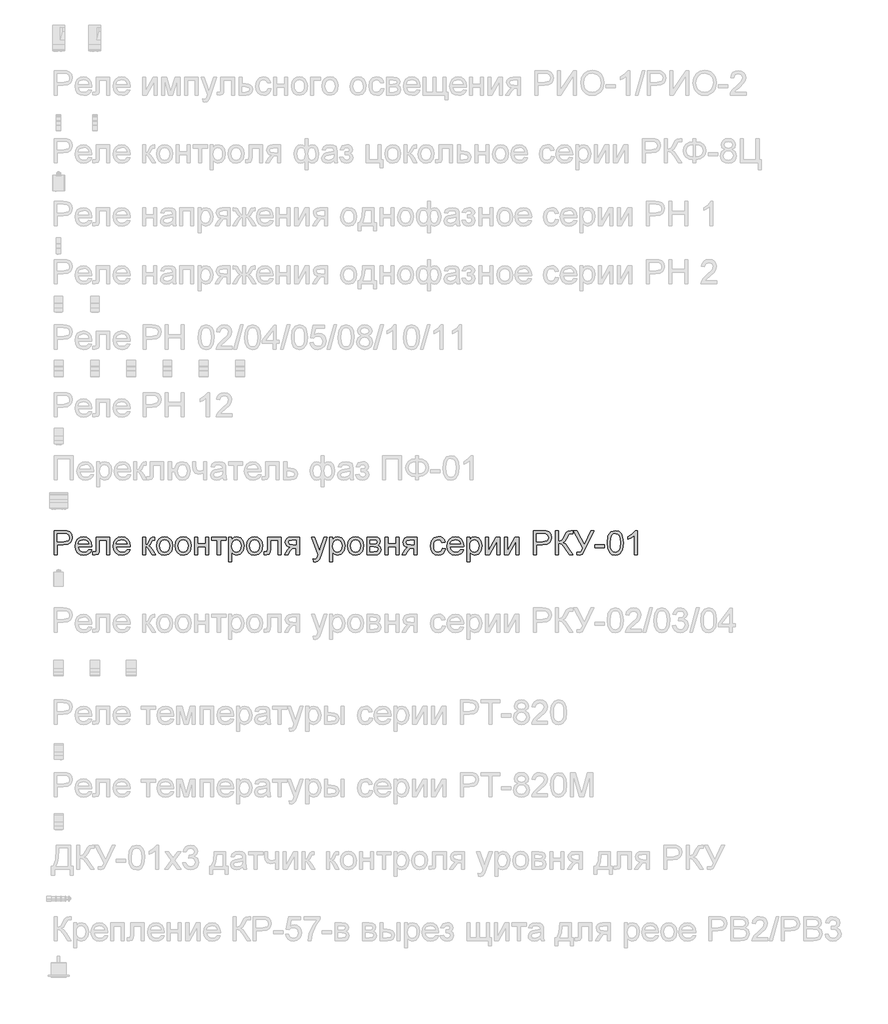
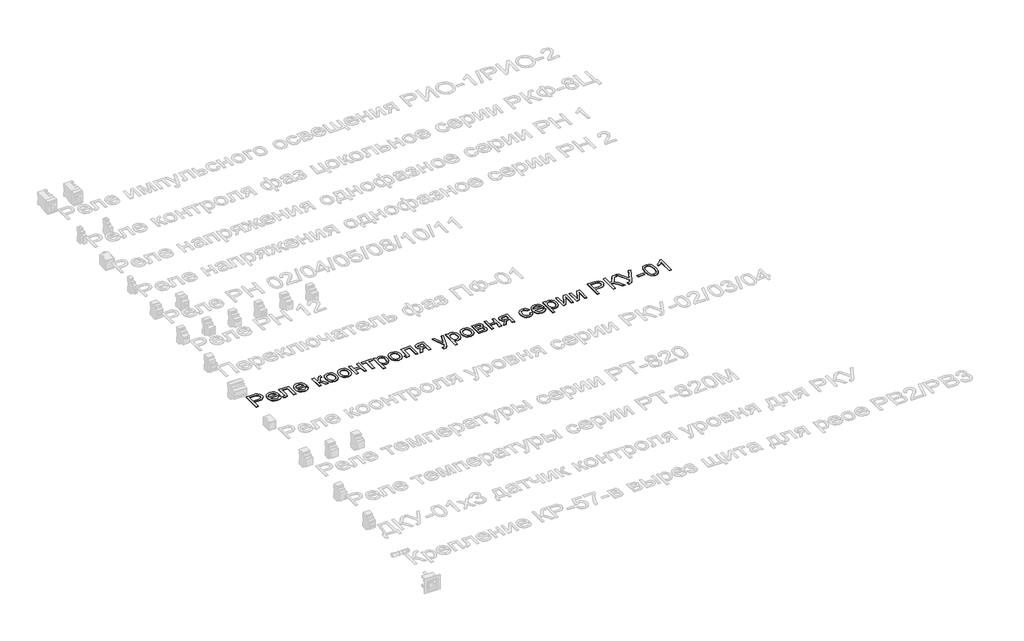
# One storey, part 8 of 34: 1 proxy.
"""IFC4 building model written with IfcOpenShell, lengths in millimetres."""

from ifc_helpers import new_model, si_unit, frame, origin, place, context, project, spatial, polyline, outline, extrude, element, save

model = new_model("IFC4")

# Units and contexts
model_context = context("Model", 3, world=origin())
ifc_project = project(units=[si_unit("LENGTHUNIT", "METRE", prefix="MILLI")], contexts=[model_context])

# Site, building, storey
site = spatial("IfcSite", under=ifc_project)
building = spatial("IfcBuilding", under=site)
storey = spatial("IfcBuildingStorey", under=building, Name="Этаж 01", Elevation=0.0)

# Proxy
placement = place(None, origin())
element("IfcBuildingElementProxy", 1, Name="Надпись на модели 1", ObjectType="Надпись на модели 1", at=placement, inside=storey, context=model_context, shape_type="SweptSolid", body=[
    extrude(outline(polyline([(-19039.0125911, 9086.235284), (-19039.0125911, 9186.6915941), (-19001.7829332, 9186.6915941), (-18986.7733478, 9185.735101), (-18974.5719283, 9181.0384742), (-18966.6624654, 9171.3263895), (-18963.6703585, 9157.6289165), (-18965.6906438, 9145.7892476), (-18971.7514996, 9135.9238788), (-18983.0853308, 9129.2652147), (-19000.9245418, 9127.04566), (-19026.4555523, 9127.04566), (-19026.4555523, 9086.235284), (-19039.0125911, 9086.235284)]), holes=[polyline([(-19026.4555523, 9139.6026988), (-19000.1887779, 9139.6026988), (-18981.6965762, 9144.2134864), (-18977.594692, 9149.7623732), (-18976.2273972, 9157.1874581), (-18979.4524961, 9167.5862559), (-18987.9260447, 9173.2761641), (-19000.4830834, 9174.1345554), (-19026.4555523, 9174.1345554), (-19026.4555523, 9139.6026988)])]), frame((0.0, 0.0, 40.0), z_axis=(0.0, 0.0, 1.0), x_axis=(1.0, 0.0, 0.0)), (0.0, 0.0, 1.0), 2.0),
    extrude(outline(polyline([(-18896.3234279, 9108.2101018), (-18884.0116438, 9106.640472), (-18888.4476875, 9097.3637143), (-18895.5263502, 9090.4291387), (-18905.0882164, 9086.1065253), (-18916.9738705, 9084.6656541), (-18931.7075445, 9087.1519233), (-18943.0444413, 9094.6107308), (-18950.2733225, 9106.5576985), (-18952.6829495, 9122.5084487), (-18950.248797, 9138.9956935), (-18942.9463394, 9151.3258717), (-18931.7627268, 9159.0146054), (-18917.6851091, 9161.5775166), (-18904.0458841, 9159.0207367), (-18893.14738, 9151.3503971), (-18886.0012722, 9139.0447444), (-18883.6192363, 9122.5820251), (-18883.6928127, 9119.1975108), (-18940.1259108, 9119.1975108), (-18937.9523413, 9109.7981258), (-18932.9031609, 9102.8880756), (-18925.6160317, 9098.6390386), (-18916.7286159, 9097.2226929), (-18904.4168318, 9099.8469178), (-18896.3234279, 9108.2101018)]), holes=[polyline([(-18940.1259108, 9131.7545495), (-18896.1762751, 9131.7545495), (-18901.2039957, 9143.1343659), (-18908.5248474, 9147.5489499), (-18917.73416, 9149.0204778), (-18933.1974665, 9144.323851), (-18938.0627059, 9138.8332123), (-18940.1259108, 9131.7545495)])]), frame((0.0, 0.0, 40.0), z_axis=(0.0, 0.0, 1.0), x_axis=(1.0, 0.0, 0.0)), (0.0, 0.0, 1.0), 2.0),
    extrude(outline(polyline([(-18864.7836782, 9160.0078868), (-18808.2770037, 9160.0078868), (-18808.2770037, 9086.3088604), (-18820.8340425, 9086.3088604), (-18820.8340425, 9147.450848), (-18852.2266394, 9147.450848), (-18852.2266394, 9112.2568038), (-18853.072768, 9096.0209451), (-18857.7203439, 9089.1660772), (-18868.7077528, 9086.235284), (-18878.9103468, 9086.8729461), (-18878.9103468, 9098.7923228), (-18873.294015, 9098.7923228), (-18867.6163695, 9099.564875), (-18865.3477639, 9102.0174216), (-18864.7836782, 9112.9680423), (-18864.7836782, 9160.0078868)])), frame((0.0, 0.0, 40.0), z_axis=(0.0, 0.0, 1.0), x_axis=(1.0, 0.0, 0.0)), (0.0, 0.0, 1.0), 2.0),
    extrude(outline(polyline([(-18737.7908134, 9108.2101018), (-18725.4790293, 9106.640472), (-18729.915073, 9097.3637143), (-18736.9937358, 9090.4291387), (-18746.555602, 9086.1065253), (-18758.4412561, 9084.6656541), (-18773.17493, 9087.1519233), (-18784.5118268, 9094.6107308), (-18791.740708, 9106.5576985), (-18794.1503351, 9122.5084487), (-18791.7161826, 9138.9956935), (-18784.4137249, 9151.3258717), (-18773.2301123, 9159.0146054), (-18759.1524946, 9161.5775166), (-18745.5132696, 9159.0207367), (-18734.6147655, 9151.3503971), (-18727.4686578, 9139.0447444), (-18725.0866219, 9122.5820251), (-18725.1601983, 9119.1975108), (-18781.5932963, 9119.1975108), (-18779.4197269, 9109.7981258), (-18774.3705465, 9102.8880756), (-18767.0834173, 9098.6390386), (-18758.1960014, 9097.2226929), (-18745.8842173, 9099.8469178), (-18737.7908134, 9108.2101018)]), holes=[polyline([(-18781.5932963, 9131.7545495), (-18737.6436606, 9131.7545495), (-18742.6713812, 9143.1343659), (-18749.9922329, 9147.5489499), (-18759.2015455, 9149.0204778), (-18774.6648521, 9144.323851), (-18779.5300915, 9138.8332123), (-18781.5932963, 9131.7545495)])]), frame((0.0, 0.0, 40.0), z_axis=(0.0, 0.0, 1.0), x_axis=(1.0, 0.0, 0.0)), (0.0, 0.0, 1.0), 2.0),
    extrude(outline(polyline([(-18673.2888369, 9160.0078868), (-18660.7317982, 9160.0078868), (-18660.7317982, 9128.6152898), (-18652.3195632, 9130.8716327), (-18645.4279072, 9144.0172827), (-18639.7012108, 9155.3603109), (-18634.6489647, 9159.0513936), (-18625.4641776, 9160.0078868), (-18623.0606819, 9160.0078868), (-18623.0606819, 9147.3772716), (-18626.4451962, 9147.450848), (-18632.5765628, 9146.1264728), (-18636.8930449, 9137.8613906), (-18641.9575537, 9128.9218582), (-18649.0576762, 9124.5440624), (-18641.1359506, 9119.6573633), (-18633.3613777, 9109.3627988), (-18619.9214222, 9086.235284), (-18634.1952436, 9086.235284), (-18647.365419, 9108.8722894), (-18653.9872949, 9118.449484), (-18660.7317982, 9120.7671406), (-18660.7317982, 9086.235284), (-18673.2888369, 9086.235284), (-18673.2888369, 9160.0078868)])), frame((0.0, 0.0, 40.0), z_axis=(0.0, 0.0, 1.0), x_axis=(1.0, 0.0, 0.0)), (0.0, 0.0, 1.0), 2.0),
    extrude(outline(polyline([(-18615.2125326, 9123.1215854), (-18612.4963372, 9140.9086798), (-18604.347751, 9153.4105363), (-18594.2800471, 9159.5357715), (-18582.2257804, 9161.5775166), (-18569.0341452, 9159.0912475), (-18558.4973917, 9151.63244), (-18551.5904073, 9139.7897054), (-18549.2880791, 9124.151655), (-18553.3593065, 9101.8089551), (-18565.2173695, 9089.1660772), (-18582.2257804, 9084.6656541), (-18595.5768311, 9087.1427262), (-18606.1013219, 9094.5739426), (-18612.9347299, 9106.6649975), (-18615.2125326, 9123.1215854)]), holes=[polyline([(-18602.6554939, 9123.1461108), (-18601.20236, 9111.7816229), (-18596.8429583, 9103.6851533), (-18590.2823961, 9098.838308), (-18582.2257804, 9097.2226929), (-18574.2059529, 9098.8475051), (-18567.6576534, 9103.7219415), (-18563.2982517, 9111.92571), (-18561.8451179, 9123.5385183), (-18563.3074488, 9134.5719125), (-18567.6944416, 9142.5580175), (-18574.2519382, 9147.4048627), (-18582.2257804, 9149.0204778), (-18590.2823961, 9147.4109941), (-18596.8429583, 9142.5825429), (-18601.20236, 9134.5044674), (-18602.6554939, 9123.1461108)])]), frame((0.0, 0.0, 40.0), z_axis=(0.0, 0.0, 1.0), x_axis=(1.0, 0.0, 0.0)), (0.0, 0.0, 1.0), 2.0),
    extrude(outline(polyline([(-18538.3006702, 9123.1215854), (-18535.5844748, 9140.9086798), (-18527.4358886, 9153.4105363), (-18517.3681846, 9159.5357715), (-18505.3139179, 9161.5775166), (-18492.1222827, 9159.0912475), (-18481.5855293, 9151.63244), (-18474.6785448, 9139.7897054), (-18472.3762166, 9124.151655), (-18476.4474441, 9101.8089551), (-18488.305507, 9089.1660772), (-18505.3139179, 9084.6656541), (-18518.6649687, 9087.1427262), (-18529.1894594, 9094.5739426), (-18536.0228675, 9106.6649975), (-18538.3006702, 9123.1215854)]), holes=[polyline([(-18525.7436314, 9123.1461108), (-18524.2904975, 9111.7816229), (-18519.9310959, 9103.6851533), (-18513.3705336, 9098.838308), (-18505.3139179, 9097.2226929), (-18497.2940904, 9098.8475051), (-18490.7457909, 9103.7219415), (-18486.3863893, 9111.92571), (-18484.9332554, 9123.5385183), (-18486.3955863, 9134.5719125), (-18490.7825791, 9142.5580175), (-18497.3400757, 9147.4048627), (-18505.3139179, 9149.0204778), (-18513.3705336, 9147.4109941), (-18519.9310959, 9142.5825429), (-18524.2904975, 9134.5044674), (-18525.7436314, 9123.1461108)])]), frame((0.0, 0.0, 40.0), z_axis=(0.0, 0.0, 1.0), x_axis=(1.0, 0.0, 0.0)), (0.0, 0.0, 1.0), 2.0),
    extrude(outline(polyline([(-18458.249548, 9160.0078868), (-18445.6925093, 9160.0078868), (-18445.6925093, 9131.7545495), (-18412.7302825, 9131.7545495), (-18412.7302825, 9160.0078868), (-18400.1732437, 9160.0078868), (-18400.1732437, 9086.235284), (-18412.7302825, 9086.235284), (-18412.7302825, 9119.1975108), (-18445.6925093, 9119.1975108), (-18445.6925093, 9086.235284), (-18458.249548, 9086.235284), (-18458.249548, 9160.0078868)])), frame((0.0, 0.0, 40.0), z_axis=(0.0, 0.0, 1.0), x_axis=(1.0, 0.0, 0.0)), (0.0, 0.0, 1.0), 2.0),
    extrude(outline(polyline([(-18387.616205, 9160.0078868), (-18327.9702708, 9160.0078868), (-18327.9702708, 9147.450848), (-18351.5147185, 9147.450848), (-18351.5147185, 9086.235284), (-18364.0717573, 9086.235284), (-18364.0717573, 9147.450848), (-18387.616205, 9147.450848), (-18387.616205, 9160.0078868)])), frame((0.0, 0.0, 40.0), z_axis=(0.0, 0.0, 1.0), x_axis=(1.0, 0.0, 0.0)), (0.0, 0.0, 1.0), 2.0),
    extrude(outline(polyline([(-18316.9828619, 9057.9819468), (-18316.9828619, 9160.0078868), (-18304.4258231, 9160.0078868), (-18304.4258231, 9147.6961027), (-18295.743808, 9158.1071631), (-18284.0206351, 9161.5775166), (-18268.1036075, 9156.7214743), (-18257.7048097, 9143.036264), (-18254.197668, 9123.6856711), (-18258.1585308, 9103.3417968), (-18269.6609746, 9089.4849083), (-18285.541214, 9084.6656541), (-18296.4673093, 9087.890753), (-18304.4258231, 9096.0454705), (-18304.4258231, 9057.9819468), (-18316.9828619, 9057.9819468)]), holes=[polyline([(-18304.4258231, 9122.5329742), (-18303.0677254, 9111.2757851), (-18298.9934323, 9103.4031104), (-18292.9816274, 9098.7677973), (-18285.8109942, 9097.2226929), (-18278.523865, 9098.8229796), (-18272.3587759, 9103.6238396), (-18268.1557241, 9111.7846886), (-18266.7547068, 9123.4649419), (-18268.1220016, 9134.6608173), (-18272.2238858, 9142.6438566), (-18278.2264937, 9147.4263225), (-18285.2959594, 9149.0204778), (-18292.3930162, 9147.325155), (-18298.6255503, 9142.2391864), (-18302.9757549, 9133.9219876), (-18304.4258231, 9122.5329742)])]), frame((0.0, 0.0, 40.0), z_axis=(0.0, 0.0, 1.0), x_axis=(1.0, 0.0, 0.0)), (0.0, 0.0, 1.0), 2.0),
    extrude(outline(polyline([(-18243.2102591, 9123.1215854), (-18240.4940637, 9140.9086798), (-18232.3454775, 9153.4105363), (-18222.2777736, 9159.5357715), (-18210.2235069, 9161.5775166), (-18197.0318717, 9159.0912475), (-18186.4951182, 9151.63244), (-18179.5881337, 9139.7897054), (-18177.2858056, 9124.151655), (-18181.357033, 9101.8089551), (-18193.215096, 9089.1660772), (-18210.2235069, 9084.6656541), (-18223.5745576, 9087.1427262), (-18234.0990484, 9094.5739426), (-18240.9324564, 9106.6649975), (-18243.2102591, 9123.1215854)]), holes=[polyline([(-18230.6532203, 9123.1461108), (-18229.2000865, 9111.7816229), (-18224.8406848, 9103.6851533), (-18218.2801226, 9098.838308), (-18210.2235069, 9097.2226929), (-18202.2036794, 9098.8475051), (-18195.6553799, 9103.7219415), (-18191.2959782, 9111.92571), (-18189.8428443, 9123.5385183), (-18191.3051753, 9134.5719125), (-18195.6921681, 9142.5580175), (-18202.2496646, 9147.4048627), (-18210.2235069, 9149.0204778), (-18218.2801226, 9147.4109941), (-18224.8406848, 9142.5825429), (-18229.2000865, 9134.5044674), (-18230.6532203, 9123.1461108)])]), frame((0.0, 0.0, 40.0), z_axis=(0.0, 0.0, 1.0), x_axis=(1.0, 0.0, 0.0)), (0.0, 0.0, 1.0), 2.0),
    extrude(outline(polyline([(-18156.8806176, 9160.0078868), (-18100.3739431, 9160.0078868), (-18100.3739431, 9086.3088604), (-18112.9309819, 9086.3088604), (-18112.9309819, 9147.450848), (-18144.3235788, 9147.450848), (-18144.3235788, 9112.2568038), (-18145.1697074, 9096.0209451), (-18149.8172833, 9089.1660772), (-18160.8046922, 9086.235284), (-18171.0072862, 9086.8729461), (-18171.0072862, 9098.7923228), (-18165.3909544, 9098.7923228), (-18159.7133089, 9099.564875), (-18157.4447033, 9102.0174216), (-18156.8806176, 9112.9680423), (-18156.8806176, 9160.0078868)])), frame((0.0, 0.0, 40.0), z_axis=(0.0, 0.0, 1.0), x_axis=(1.0, 0.0, 0.0)), (0.0, 0.0, 1.0), 2.0),
    extrude(outline(polyline([(-18025.0317105, 9160.0078868), (-18025.0317105, 9086.235284), (-18037.5887493, 9086.235284), (-18037.5887493, 9114.4886212), (-18044.4313544, 9114.4886212), (-18053.7510316, 9112.8944659), (-18062.5066231, 9102.1768371), (-18072.5130133, 9086.235284), (-18087.0320894, 9086.235284), (-18074.4259997, 9106.3952173), (-18063.7328964, 9116.843066), (-18072.3168096, 9119.4734223), (-18078.3500743, 9124.470486), (-18083.1080148, 9138.6952565), (-18081.4832027, 9147.2914325), (-18076.6087662, 9154.0972494), (-18068.6563838, 9158.5302274), (-18057.7977335, 9160.0078868), (-18025.0317105, 9160.0078868)]), holes=[polyline([(-18037.5887493, 9147.450848), (-18054.1434391, 9147.450848), (-18067.5466064, 9144.5445802), (-18070.550976, 9137.7387633), (-18066.1241294, 9129.6330967), (-18050.4400936, 9127.04566), (-18037.5887493, 9127.04566), (-18037.5887493, 9147.450848)])]), frame((0.0, 0.0, 40.0), z_axis=(0.0, 0.0, 1.0), x_axis=(1.0, 0.0, 0.0)), (0.0, 0.0, 1.0), 2.0),
    extrude(outline(polyline([(-17966.9554062, 9057.9819468), (-17968.525036, 9070.0730017), (-17962.1484148, 9068.9693557), (-17956.1887265, 9070.3550445), (-17952.534432, 9074.2178055), (-17949.1008667, 9083.4639063), (-17948.119848, 9086.5050641), (-17974.8035554, 9160.0078868), (-17961.5598036, 9160.0078868), (-17947.4086095, 9119.050358), (-17942.4789908, 9102.6673464), (-17937.5493721, 9117.1373716), (-17923.0057705, 9160.0078868), (-17909.8601205, 9160.0078868), (-17935.5382838, 9084.4694504), (-17942.2092107, 9068.0864389), (-17949.4932742, 9059.2327455), (-17959.2789352, 9056.4123169), (-17966.9554062, 9057.9819468)])), frame((0.0, 0.0, 40.0), z_axis=(0.0, 0.0, 1.0), x_axis=(1.0, 0.0, 0.0)), (0.0, 0.0, 1.0), 2.0),
    extrude(outline(polyline([(-17899.4613228, 9057.9819468), (-17899.4613228, 9160.0078868), (-17886.904284, 9160.0078868), (-17886.904284, 9147.6961027), (-17878.222269, 9158.1071631), (-17866.499096, 9161.5775166), (-17850.5820684, 9156.7214743), (-17840.1832707, 9143.036264), (-17836.676129, 9123.6856711), (-17840.6369918, 9103.3417968), (-17852.1394355, 9089.4849083), (-17868.019675, 9084.6656541), (-17878.9457702, 9087.890753), (-17886.904284, 9096.0454705), (-17886.904284, 9057.9819468), (-17899.4613228, 9057.9819468)]), holes=[polyline([(-17886.904284, 9122.5329742), (-17885.5461864, 9111.2757851), (-17881.4718933, 9103.4031104), (-17875.4600883, 9098.7677973), (-17868.2894551, 9097.2226929), (-17861.0023259, 9098.8229796), (-17854.8372368, 9103.6238396), (-17850.634185, 9111.7846886), (-17849.2331677, 9123.4649419), (-17850.6004625, 9134.6608173), (-17854.7023467, 9142.6438566), (-17860.7049546, 9147.4263225), (-17867.7744203, 9149.0204778), (-17874.8714771, 9147.325155), (-17881.1040113, 9142.2391864), (-17885.4542159, 9133.9219876), (-17886.904284, 9122.5329742)])]), frame((0.0, 0.0, 40.0), z_axis=(0.0, 0.0, 1.0), x_axis=(1.0, 0.0, 0.0)), (0.0, 0.0, 1.0), 2.0),
    extrude(outline(polyline([(-17825.6887201, 9123.1215854), (-17822.9725247, 9140.9086798), (-17814.8239385, 9153.4105363), (-17804.7562345, 9159.5357715), (-17792.7019678, 9161.5775166), (-17779.5103326, 9159.0912475), (-17768.9735791, 9151.63244), (-17762.0665947, 9139.7897054), (-17759.7642665, 9124.151655), (-17763.8354939, 9101.8089551), (-17775.6935569, 9089.1660772), (-17792.7019678, 9084.6656541), (-17806.0530186, 9087.1427262), (-17816.5775093, 9094.5739426), (-17823.4109174, 9106.6649975), (-17825.6887201, 9123.1215854)]), holes=[polyline([(-17813.1316813, 9123.1461108), (-17811.6785474, 9111.7816229), (-17807.3191458, 9103.6851533), (-17800.7585835, 9098.838308), (-17792.7019678, 9097.2226929), (-17784.6821403, 9098.8475051), (-17778.1338408, 9103.7219415), (-17773.7744392, 9111.92571), (-17772.3213053, 9123.5385183), (-17773.7836362, 9134.5719125), (-17778.170629, 9142.5580175), (-17784.7281256, 9147.4048627), (-17792.7019678, 9149.0204778), (-17800.7585835, 9147.4109941), (-17807.3191458, 9142.5825429), (-17811.6785474, 9134.5044674), (-17813.1316813, 9123.1461108)])]), frame((0.0, 0.0, 40.0), z_axis=(0.0, 0.0, 1.0), x_axis=(1.0, 0.0, 0.0)), (0.0, 0.0, 1.0), 2.0),
    extrude(outline(polyline([(-17745.6375979, 9160.0078868), (-17717.9728719, 9160.0078868), (-17702.8038709, 9158.3278923), (-17694.2690086, 9152.1720003), (-17690.7005533, 9141.4421087), (-17692.8587943, 9132.7233055), (-17699.3580429, 9126.5060997), (-17690.9212825, 9119.7002828), (-17687.5612936, 9107.8667453), (-17689.6888778, 9098.2956821), (-17694.7472552, 9091.5573102), (-17702.75482, 9087.5657905), (-17713.7299662, 9086.235284), (-17745.6375979, 9086.235284), (-17745.6375979, 9160.0078868)]), holes=[polyline([(-17733.0805591, 9131.7545495), (-17720.6706732, 9131.7545495), (-17710.431291, 9132.3922117), (-17705.4526213, 9134.9428602), (-17703.2575921, 9139.5536478), (-17707.1080903, 9145.7095399), (-17720.2782657, 9147.450848), (-17733.0805591, 9147.450848), (-17733.0805591, 9131.7545495)]), polyline([(-17733.0805591, 9098.7923228), (-17717.6785663, 9098.7923228), (-17704.0178815, 9101.0609284), (-17700.1183324, 9108.8968149), (-17702.2643107, 9114.9423424), (-17707.856117, 9118.4617468), (-17718.9048396, 9119.1975108), (-17733.0805591, 9119.1975108), (-17733.0805591, 9098.7923228)])]), frame((0.0, 0.0, 40.0), z_axis=(0.0, 0.0, 1.0), x_axis=(1.0, 0.0, 0.0)), (0.0, 0.0, 1.0), 2.0),
    extrude(outline(polyline([(-17671.8649951, 9160.0078868), (-17659.3079564, 9160.0078868), (-17659.3079564, 9131.7545495), (-17626.3457296, 9131.7545495), (-17626.3457296, 9160.0078868), (-17613.7886908, 9160.0078868), (-17613.7886908, 9086.235284), (-17626.3457296, 9086.235284), (-17626.3457296, 9119.1975108), (-17659.3079564, 9119.1975108), (-17659.3079564, 9086.235284), (-17671.8649951, 9086.235284), (-17671.8649951, 9160.0078868)])), frame((0.0, 0.0, 40.0), z_axis=(0.0, 0.0, 1.0), x_axis=(1.0, 0.0, 0.0)), (0.0, 0.0, 1.0), 2.0),
    extrude(outline(polyline([(-17538.4464582, 9160.0078868), (-17538.4464582, 9086.235284), (-17551.003497, 9086.235284), (-17551.003497, 9114.4886212), (-17557.8461021, 9114.4886212), (-17567.1657793, 9112.8944659), (-17575.9213708, 9102.1768371), (-17585.9277611, 9086.235284), (-17600.4468371, 9086.235284), (-17587.8407474, 9106.3952173), (-17577.1476441, 9116.843066), (-17585.7315573, 9119.4734223), (-17591.7648221, 9124.470486), (-17596.5227625, 9138.6952565), (-17594.8979504, 9147.2914325), (-17590.0235139, 9154.0972494), (-17582.0711315, 9158.5302274), (-17571.2124813, 9160.0078868), (-17538.4464582, 9160.0078868)]), holes=[polyline([(-17551.003497, 9147.450848), (-17567.5581868, 9147.450848), (-17580.9613541, 9144.5445802), (-17583.9657238, 9137.7387633), (-17579.5388771, 9129.6330967), (-17563.8548414, 9127.04566), (-17551.003497, 9127.04566), (-17551.003497, 9147.450848)])]), frame((0.0, 0.0, 40.0), z_axis=(0.0, 0.0, 1.0), x_axis=(1.0, 0.0, 0.0)), (0.0, 0.0, 1.0), 2.0),
    extrude(outline(polyline([(-17433.2812585, 9112.9189914), (-17420.7242198, 9111.3493615), (-17424.2252301, 9100.1810773), (-17430.8041864, 9091.7412512), (-17439.8418208, 9086.4345534), (-17450.7188651, 9084.6656541), (-17464.0760472, 9087.1335292), (-17474.5208302, 9094.5371544), (-17481.2622678, 9106.5515672), (-17483.5094136, 9122.8518052), (-17479.6711781, 9143.7107144), (-17467.9725307, 9157.1138817), (-17450.8905434, 9161.5775166), (-17440.2802135, 9160.044675), (-17431.7974678, 9155.44615), (-17425.7120865, 9148.0271964), (-17422.2938496, 9138.0330689), (-17434.8508884, 9136.4634391), (-17440.6756866, 9145.8689554), (-17450.7924415, 9149.0204778), (-17458.9073052, 9147.4692421), (-17465.3483058, 9142.8155349), (-17469.5513576, 9134.8079701), (-17470.9523748, 9123.1951618), (-17469.5820144, 9111.4260036), (-17465.4709331, 9103.3908477), (-17459.1464285, 9098.7647316), (-17451.135798, 9097.2226929), (-17439.3022605, 9101.0731911), (-17433.2812585, 9112.9189914)])), frame((0.0, 0.0, 40.0), z_axis=(0.0, 0.0, 1.0), x_axis=(1.0, 0.0, 0.0)), (0.0, 0.0, 1.0), 2.0),
    extrude(outline(polyline([(-17358.0861787, 9108.2101018), (-17345.7743946, 9106.640472), (-17350.2104383, 9097.3637143), (-17357.2891011, 9090.4291387), (-17366.8509673, 9086.1065253), (-17378.7366214, 9084.6656541), (-17393.4702953, 9087.1519233), (-17404.8071921, 9094.6107308), (-17412.0360733, 9106.5576985), (-17414.4457004, 9122.5084487), (-17412.0115478, 9138.9956935), (-17404.7090902, 9151.3258717), (-17393.5254776, 9159.0146054), (-17379.4478599, 9161.5775166), (-17365.8086349, 9159.0207367), (-17354.9101308, 9151.3503971), (-17347.7640231, 9139.0447444), (-17345.3819871, 9122.5820251), (-17345.4555635, 9119.1975108), (-17401.8886616, 9119.1975108), (-17399.7150922, 9109.7981258), (-17394.6659118, 9102.8880756), (-17387.3787826, 9098.6390386), (-17378.4913667, 9097.2226929), (-17366.1795826, 9099.8469178), (-17358.0861787, 9108.2101018)]), holes=[polyline([(-17401.8886616, 9131.7545495), (-17357.9390259, 9131.7545495), (-17362.9667465, 9143.1343659), (-17370.2875982, 9147.5489499), (-17379.4969108, 9149.0204778), (-17394.9602174, 9144.323851), (-17399.8254568, 9138.8332123), (-17401.8886616, 9131.7545495)])]), frame((0.0, 0.0, 40.0), z_axis=(0.0, 0.0, 1.0), x_axis=(1.0, 0.0, 0.0)), (0.0, 0.0, 1.0), 2.0),
    extrude(outline(polyline([(-17332.8249484, 9057.9819468), (-17332.8249484, 9160.0078868), (-17320.2679096, 9160.0078868), (-17320.2679096, 9147.6961027), (-17311.5858945, 9158.1071631), (-17299.8627216, 9161.5775166), (-17283.945694, 9156.7214743), (-17273.5468962, 9143.036264), (-17270.0397545, 9123.6856711), (-17274.0006174, 9103.3417968), (-17285.5030611, 9089.4849083), (-17301.3833005, 9084.6656541), (-17312.3093958, 9087.890753), (-17320.2679096, 9096.0454705), (-17320.2679096, 9057.9819468), (-17332.8249484, 9057.9819468)]), holes=[polyline([(-17320.2679096, 9122.5329742), (-17318.9098119, 9111.2757851), (-17314.8355188, 9103.4031104), (-17308.8237139, 9098.7677973), (-17301.6530807, 9097.2226929), (-17294.3659515, 9098.8229796), (-17288.2008624, 9103.6238396), (-17283.9978106, 9111.7846886), (-17282.5967933, 9123.4649419), (-17283.9640881, 9134.6608173), (-17288.0659723, 9142.6438566), (-17294.0685802, 9147.4263225), (-17301.1380459, 9149.0204778), (-17308.2351027, 9147.325155), (-17314.4676368, 9142.2391864), (-17318.8178414, 9133.9219876), (-17320.2679096, 9122.5329742)])]), frame((0.0, 0.0, 40.0), z_axis=(0.0, 0.0, 1.0), x_axis=(1.0, 0.0, 0.0)), (0.0, 0.0, 1.0), 2.0),
    extrude(outline(polyline([(-17255.9130859, 9160.0078868), (-17243.3560472, 9160.0078868), (-17243.3560472, 9103.746467), (-17212.5030105, 9160.0078868), (-17196.2671518, 9160.0078868), (-17196.2671518, 9086.235284), (-17208.8241905, 9086.235284), (-17208.8241905, 9142.1533473), (-17239.4810235, 9086.235284), (-17255.9130859, 9086.235284), (-17255.9130859, 9160.0078868)])), frame((0.0, 0.0, 40.0), z_axis=(0.0, 0.0, 1.0), x_axis=(1.0, 0.0, 0.0)), (0.0, 0.0, 1.0), 2.0),
    extrude(outline(polyline([(-17177.4315936, 9160.0078868), (-17164.8745548, 9160.0078868), (-17164.8745548, 9103.746467), (-17134.0215182, 9160.0078868), (-17117.7856595, 9160.0078868), (-17117.7856595, 9086.235284), (-17130.3426982, 9086.235284), (-17130.3426982, 9142.1533473), (-17160.9995312, 9086.235284), (-17177.4315936, 9086.235284), (-17177.4315936, 9160.0078868)])), frame((0.0, 0.0, 40.0), z_axis=(0.0, 0.0, 1.0), x_axis=(1.0, 0.0, 0.0)), (0.0, 0.0, 1.0), 2.0),
    extrude(outline(polyline([(-17058.1397253, 9086.235284), (-17058.1397253, 9186.6915941), (-17020.9100674, 9186.6915941), (-17005.900482, 9185.735101), (-16993.6990625, 9181.0384742), (-16985.7895996, 9171.3263895), (-16982.7974927, 9157.6289165), (-16984.817778, 9145.7892476), (-16990.8786339, 9135.9238788), (-17002.212465, 9129.2652147), (-17020.0516761, 9127.04566), (-17045.5826865, 9127.04566), (-17045.5826865, 9086.235284), (-17058.1397253, 9086.235284)]), holes=[polyline([(-17045.5826865, 9139.6026988), (-17019.3159121, 9139.6026988), (-17000.8237105, 9144.2134864), (-16996.7218262, 9149.7623732), (-16995.3545315, 9157.1874581), (-16998.5796303, 9167.5862559), (-17007.0531789, 9173.2761641), (-17019.6102177, 9174.1345554), (-17045.5826865, 9174.1345554), (-17045.5826865, 9139.6026988)])]), frame((0.0, 0.0, 40.0), z_axis=(0.0, 0.0, 1.0), x_axis=(1.0, 0.0, 0.0)), (0.0, 0.0, 1.0), 2.0),
    extrude(outline(polyline([(-16965.5315644, 9186.6915941), (-16952.9745256, 9186.6915941), (-16952.9745256, 9142.7419585), (-16938.9336961, 9146.0651591), (-16929.1357723, 9162.8773663), (-16922.2073281, 9176.9181958), (-16914.3591789, 9183.8711655), (-16903.138778, 9186.6915941), (-16894.8982213, 9186.5444413), (-16894.8982213, 9173.9874026), (-16897.669599, 9174.060979), (-16900.4409767, 9174.1345554), (-16910.2511633, 9171.117923), (-16917.706905, 9158.1930022), (-16926.5973866, 9142.4476529), (-16935.2671389, 9137.248254), (-16925.5734484, 9131.5706085), (-16916.0146478, 9119.737071), (-16894.8982213, 9086.235284), (-16909.4663483, 9086.235284), (-16927.3208878, 9114.5376722), (-16939.8901893, 9129.3142656), (-16952.9745256, 9133.3241794), (-16952.9745256, 9086.235284), (-16965.5315644, 9086.235284), (-16965.5315644, 9186.6915941)])), frame((0.0, 0.0, 40.0), z_axis=(0.0, 0.0, 1.0), x_axis=(1.0, 0.0, 0.0)), (0.0, 0.0, 1.0), 2.0),
    extrude(outline(polyline([(-16890.9741467, 9186.6915941), (-16877.0682073, 9186.6915941), (-16847.024511, 9127.1928128), (-16819.9974471, 9186.6915941), (-16806.214135, 9186.6915941), (-16844.3512352, 9108.430831), (-16854.7255074, 9089.2028654), (-16866.326053, 9084.6656541), (-16877.632293, 9086.235284), (-16877.632293, 9097.2226929), (-16867.7485301, 9097.2226929), (-16860.4154156, 9100.0185961), (-16853.6218615, 9112.7473131), (-16890.9741467, 9186.6915941)])), frame((0.0, 0.0, 40.0), z_axis=(0.0, 0.0, 1.0), x_axis=(1.0, 0.0, 0.0)), (0.0, 0.0, 1.0), 2.0),
    extrude(outline(polyline([(-16802.2900604, 9116.0582511), (-16802.2900604, 9128.6152898), (-16763.0493143, 9128.6152898), (-16763.0493143, 9116.0582511), (-16802.2900604, 9116.0582511)])), frame((0.0, 0.0, 40.0), z_axis=(0.0, 0.0, 1.0), x_axis=(1.0, 0.0, 0.0)), (0.0, 0.0, 1.0), 2.0),
    extrude(outline(polyline([(-16752.0619053, 9135.6540987), (-16748.3708226, 9164.5573608), (-16737.4079392, 9181.2224151), (-16719.0996786, 9186.6915941), (-16704.4334497, 9183.4542326), (-16694.3044321, 9174.1222926), (-16688.4183202, 9159.25986), (-16686.1374518, 9135.6540987), (-16689.7917463, 9106.8734639), (-16700.7178415, 9090.1716213), (-16708.9492012, 9086.0421459), (-16719.0996786, 9084.6656541), (-16732.1472267, 9087.0568871), (-16742.0555151, 9094.230586), (-16749.5603078, 9111.2206028), (-16752.0619053, 9135.6540987)]), holes=[polyline([(-16739.5048666, 9135.6786241), (-16738.0333386, 9115.9264267), (-16733.6187546, 9104.4944937), (-16727.0459297, 9099.0406431), (-16719.0996786, 9097.2226929), (-16711.1534275, 9099.0467745), (-16704.5806025, 9104.5190192), (-16700.1660185, 9115.9570835), (-16698.6944906, 9135.6786241), (-16700.1169676, 9154.9862975), (-16704.3843988, 9166.5071353), (-16710.944961, 9172.2277004), (-16719.2468314, 9174.1345554), (-16727.1072433, 9172.4545609), (-16733.4225509, 9167.4145776), (-16737.9842876, 9155.1763699), (-16739.5048666, 9135.6786241)])]), frame((0.0, 0.0, 40.0), z_axis=(0.0, 0.0, 1.0), x_axis=(1.0, 0.0, 0.0)), (0.0, 0.0, 1.0), 2.0),
    extrude(outline(polyline([(-16628.0611475, 9086.235284), (-16640.6181863, 9086.235284), (-16640.6181863, 9164.5205726), (-16652.5130374, 9156.0470239), (-16665.7322638, 9149.7071909), (-16665.7322638, 9161.5775166), (-16647.3259013, 9173.325215), (-16636.1545514, 9186.6915941), (-16628.0611475, 9186.6915941), (-16628.0611475, 9086.235284)])), frame((0.0, 0.0, 40.0), z_axis=(0.0, 0.0, 1.0), x_axis=(1.0, 0.0, 0.0)), (0.0, 0.0, 1.0), 2.0),
])

save(model, "model.ifc")
